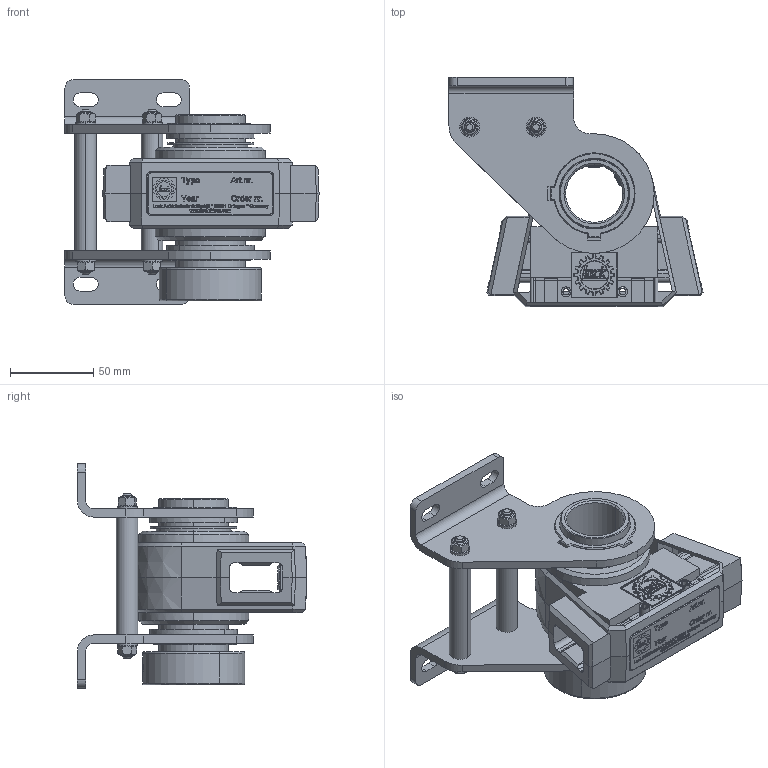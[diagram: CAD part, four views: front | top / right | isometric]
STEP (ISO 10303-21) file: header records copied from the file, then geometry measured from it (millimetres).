
FILE_DESCRIPTION (( 'STEP AP214' ), '1' );
FILE_NAME ('ZSG 20.4200_61404.2542.00_STEP_20150226.STEP', '2015-02-26T09:46:55', ( '' ), ( '' ), 'SwSTEP 2.0', 'SolidWorks 2013', '' );
FILE_SCHEMA (( 'AUTOMOTIVE_DESIGN' ));
Length unit declared in the file: millimetre
Products named in the file (1): ZSG 20.4200_61404.2542.00_STEP_20150226
Bounding box: 152.95 x 138 x 135 mm (x, y, z)
Volume: 407980.9 mm3; surface area: 176983 mm2
Topology: 32 solids, 32 shells, 2949 faces, 7558 edges, 4852 vertices
Faces by surface type: plane 1236, cylinder 637, bspline 612, cone 277, torus 187
Entity records: 149802 total; most frequent: CARTESIAN_POINT 49993, ORIENTED_EDGE 15108, DIRECTION 11757, EDGE_CURVE 7554, VERTEX_POINT 4852, VECTOR 4059, LINE 4059, AXIS2_PLACEMENT_3D 3849
